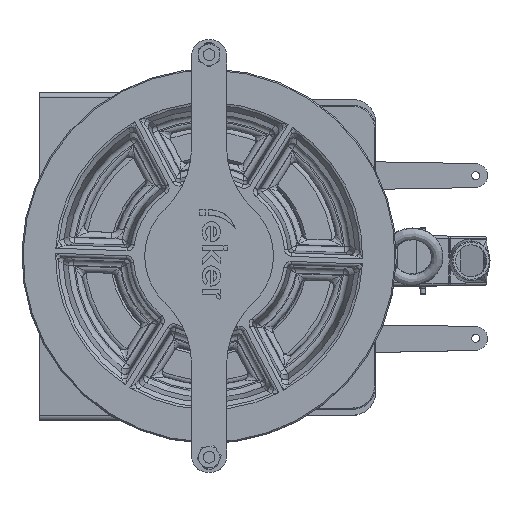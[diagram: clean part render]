
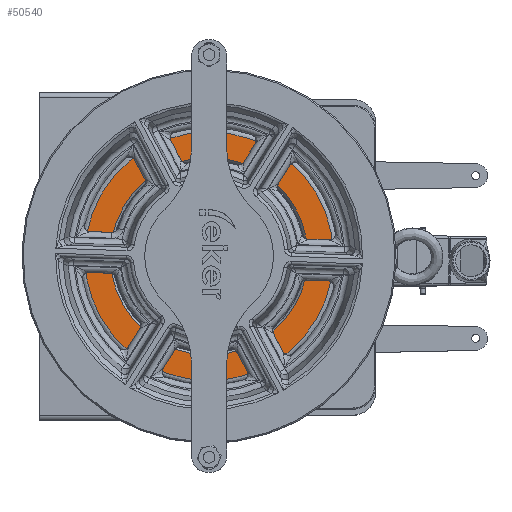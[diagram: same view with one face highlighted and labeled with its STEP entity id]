
A CAD part, top view. The second image highlights one B-rep face of the part: STEP entity #50540.
In plain terms, the highlighted planar face has unit normal (0, 0, 1).
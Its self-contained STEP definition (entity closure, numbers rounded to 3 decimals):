
#5231 = CARTESIAN_POINT ( 'NONE',  ( -44.8, -3.883, 967. ) ) ;
#11242 = EDGE_LOOP ( 'NONE', ( #14429, #121886 ) ) ;
#13320 = VERTEX_POINT ( 'NONE', #53871 ) ;
#14103 = AXIS2_PLACEMENT_3D ( 'NONE', #5231, #66974, #128711 ) ;
#14429 = ORIENTED_EDGE ( 'NONE', *, *, #38743, .T. ) ;
#14913 = AXIS2_PLACEMENT_3D ( 'NONE', #132744, #150871, #167062 ) ;
#16433 = VERTEX_POINT ( 'NONE', #123501 ) ;
#18797 = DIRECTION ( 'NONE',  ( 0.5, -0.866, 0. ) ) ;
#20707 = CARTESIAN_POINT ( 'NONE',  ( 8.37, -95.976, 967. ) ) ;
#29462 = FACE_OUTER_BOUND ( 'NONE', #11242, .T. ) ;
#33651 = VERTEX_POINT ( 'NONE', #20707 ) ;
#38743 = EDGE_CURVE ( 'NONE', #33651, #170583, #199959, .T. ) ;
#49713 = CARTESIAN_POINT ( 'NONE',  ( -44.8, -3.883, 967. ) ) ;
#50540 = ADVANCED_FACE ( 'NONE', ( #29462, #91137 ), #70984, .T. ) ;
#53871 = CARTESIAN_POINT ( 'NONE',  ( -2.55, -77.062, 967. ) ) ;
#66974 = DIRECTION ( 'NONE',  ( 0., 0., 1. ) ) ;
#70984 = PLANE ( 'NONE',  #14913 ) ;
#81484 = DIRECTION ( 'NONE',  ( 0., 0., -1. ) ) ;
#83373 = CIRCLE ( 'NONE', #138319, 84.5 ) ;
#83562 = EDGE_CURVE ( 'NONE', #170583, #33651, #185463, .T. ) ;
#84492 = CARTESIAN_POINT ( 'NONE',  ( -44.8, -3.883, 967. ) ) ;
#91137 = FACE_BOUND ( 'NONE', #194255, .T. ) ;
#92968 = EDGE_CURVE ( 'NONE', #13320, #16433, #194066, .T. ) ;
#93969 = ORIENTED_EDGE ( 'NONE', *, *, #167917, .T. ) ;
#95479 = CARTESIAN_POINT ( 'NONE',  ( -97.97, 88.21, 967. ) ) ;
#98689 = DIRECTION ( 'NONE',  ( 0.5, -0.866, 0. ) ) ;
#108881 = CARTESIAN_POINT ( 'NONE',  ( -44.8, -3.883, 967. ) ) ;
#111420 = DIRECTION ( 'NONE',  ( 0.5, -0.866, 0. ) ) ;
#112673 = AXIS2_PLACEMENT_3D ( 'NONE', #49713, #156956, #111420 ) ;
#115865 = DIRECTION ( 'NONE',  ( 0., 0., -1. ) ) ;
#121886 = ORIENTED_EDGE ( 'NONE', *, *, #83562, .T. ) ;
#123501 = CARTESIAN_POINT ( 'NONE',  ( -87.05, 69.296, 967. ) ) ;
#128711 = DIRECTION ( 'NONE',  ( 0.5, -0.866, 0. ) ) ;
#132744 = CARTESIAN_POINT ( 'NONE',  ( 47.293, 49.287, 967. ) ) ;
#138319 = AXIS2_PLACEMENT_3D ( 'NONE', #108881, #81484, #18797 ) ;
#150871 = DIRECTION ( 'NONE',  ( 0., 0., 1. ) ) ;
#156956 = DIRECTION ( 'NONE',  ( 0., 0., 1. ) ) ;
#167062 = DIRECTION ( 'NONE',  ( 1., 0., 0. ) ) ;
#167917 = EDGE_CURVE ( 'NONE', #16433, #13320, #83373, .T. ) ;
#170583 = VERTEX_POINT ( 'NONE', #95479 ) ;
#185463 = CIRCLE ( 'NONE', #14103, 106.34 ) ;
#187641 = ORIENTED_EDGE ( 'NONE', *, *, #92968, .T. ) ;
#194066 = CIRCLE ( 'NONE', #197270, 84.5 ) ;
#194255 = EDGE_LOOP ( 'NONE', ( #187641, #93969 ) ) ;
#197270 = AXIS2_PLACEMENT_3D ( 'NONE', #84492, #115865, #98689 ) ;
#199959 = CIRCLE ( 'NONE', #112673, 106.34 ) ;
